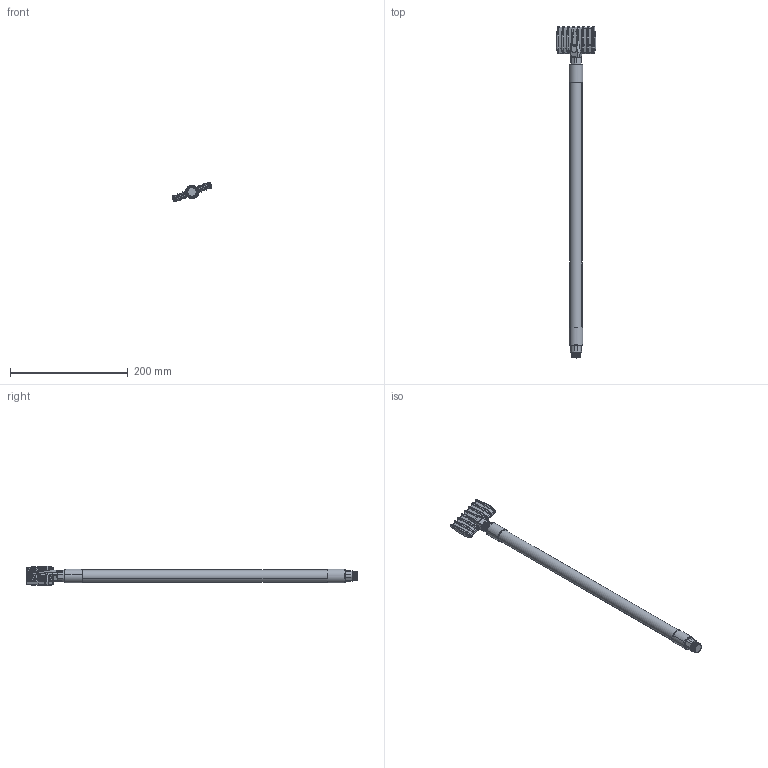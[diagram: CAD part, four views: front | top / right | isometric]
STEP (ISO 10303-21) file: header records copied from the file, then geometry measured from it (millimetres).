
FILE_DESCRIPTION (( 'STEP AP214' ), '1' );
FILE_NAME ('9005W-S-500.STEP', '2024-10-17T06:28:22', ( '' ), ( '' ), 'SwSTEP 2.0', 'SolidWorks 2021', '' );
FILE_SCHEMA (( 'AUTOMOTIVE_DESIGN' ));
Length unit declared in the file: millimetre
Products named in the file (8): FB38 hose_500; 70078; 70038_M_BSP MALE; FB38; 9005W-S; 70039; 70038_F_BSP FEMALE; 9005W-S-500
Assembly tree (8 placements, depth 3):
  9005W-S-500
    FB38
      70038_M_BSP MALE
      FB38 hose_500
      70039  x2
      70038_F_BSP FEMALE
    70078
    9005W-S
Bounding box: 67.83 x 563.5 x 33.79 mm (x, y, z)
Volume: 201869.2 mm3; surface area: 55290 mm2
Topology: 7 solids, 7 shells, 1760 faces, 5098 edges, 3309 vertices
Faces by surface type: cylinder 829, bspline 526, plane 265, torus 64, sphere 56, cone 20
Entity records: 84508 total; most frequent: CARTESIAN_POINT 36023, ORIENTED_EDGE 8434, DIRECTION 5596, EDGE_CURVE 4217, VERTEX_POINT 2610, AXIS2_PLACEMENT_3D 2177, EDGE_LOOP 1649, FACE_OUTER_BOUND 1632
